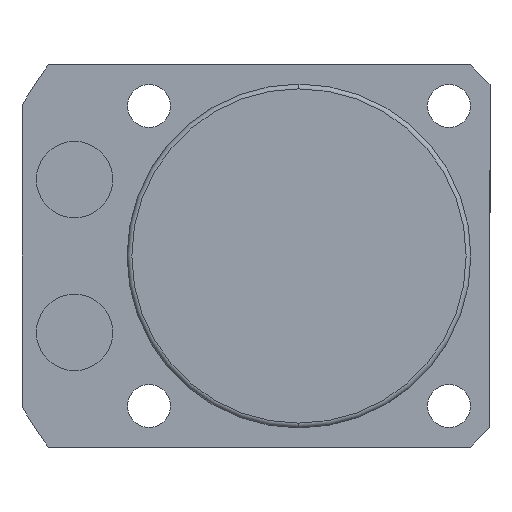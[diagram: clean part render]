
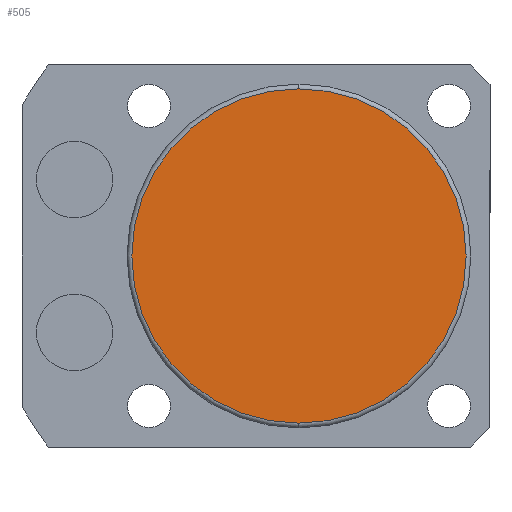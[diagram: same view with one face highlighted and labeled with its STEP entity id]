
A CAD part, front view. The second image highlights one B-rep face of the part: STEP entity #505.
In plain terms, the highlighted planar face has unit normal (0, -1, 0).
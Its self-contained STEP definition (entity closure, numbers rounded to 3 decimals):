
#45 = CARTESIAN_POINT ( 'NONE',  ( 0., -60.5, 0. ) ) ;
#50 = ORIENTED_EDGE ( 'NONE', *, *, #1695, .T. ) ;
#200 = VERTEX_POINT ( 'NONE', #3838 ) ;
#270 = VERTEX_POINT ( 'NONE', #2591 ) ;
#317 = AXIS2_PLACEMENT_3D ( 'NONE', #45, #4340, #1624 ) ;
#338 = DIRECTION ( 'NONE',  ( 0., -1., 0. ) ) ;
#480 = PLANE ( 'NONE',  #317 ) ;
#505 = ADVANCED_FACE ( 'NONE', ( #1475 ), #480, .T. ) ;
#731 = AXIS2_PLACEMENT_3D ( 'NONE', #3825, #338, #3394 ) ;
#1475 = FACE_OUTER_BOUND ( 'NONE', #4179, .T. ) ;
#1586 = CARTESIAN_POINT ( 'NONE',  ( 0., -60.5, 0. ) ) ;
#1590 = AXIS2_PLACEMENT_3D ( 'NONE', #1586, #3603, #2796 ) ;
#1624 = DIRECTION ( 'NONE',  ( 0., 0., -1. ) ) ;
#1695 = EDGE_CURVE ( 'NONE', #200, #270, #2324, .T. ) ;
#2324 = CIRCLE ( 'NONE', #731, 17.5 ) ;
#2591 = CARTESIAN_POINT ( 'NONE',  ( 0., -60.5, -17.5 ) ) ;
#2796 = DIRECTION ( 'NONE',  ( 0., 0., -1. ) ) ;
#3394 = DIRECTION ( 'NONE',  ( 0., 0., -1. ) ) ;
#3603 = DIRECTION ( 'NONE',  ( 0., -1., 0. ) ) ;
#3825 = CARTESIAN_POINT ( 'NONE',  ( 0., -60.5, 0. ) ) ;
#3838 = CARTESIAN_POINT ( 'NONE',  ( 0., -60.5, 17.5 ) ) ;
#4123 = CIRCLE ( 'NONE', #1590, 17.5 ) ;
#4179 = EDGE_LOOP ( 'NONE', ( #4561, #50 ) ) ;
#4340 = DIRECTION ( 'NONE',  ( 0., -1., 0. ) ) ;
#4561 = ORIENTED_EDGE ( 'NONE', *, *, #4886, .T. ) ;
#4886 = EDGE_CURVE ( 'NONE', #270, #200, #4123, .T. ) ;
